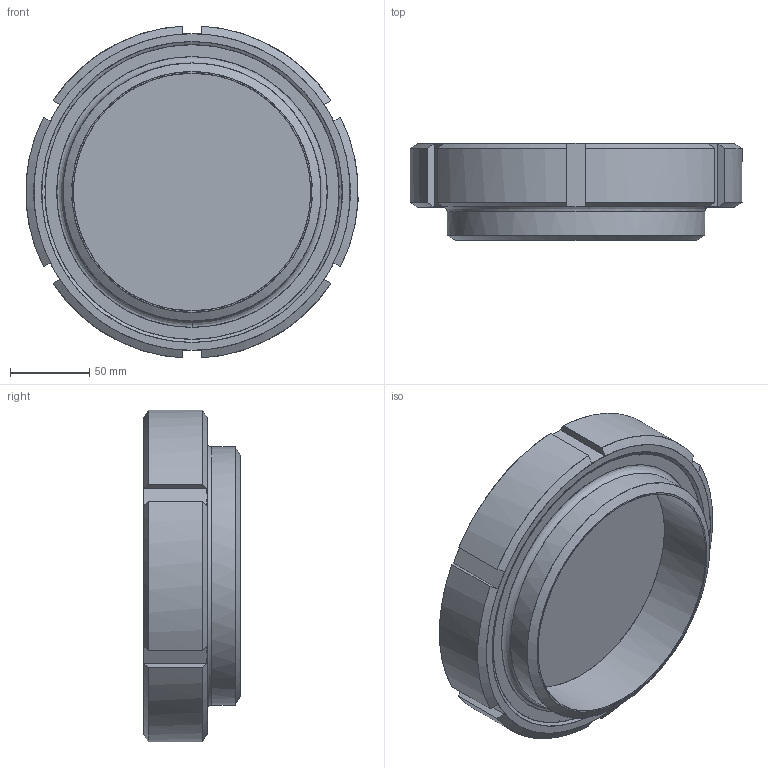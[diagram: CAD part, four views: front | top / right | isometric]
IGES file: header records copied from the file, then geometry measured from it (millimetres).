
Start section: C
Global section: file name: MV 150.igs; native system: By Siemens PLM Incorporated; preprocessor: XPlus GENERIC/IGES 18.0.17; author: Author; organization: Title; date: 20160118.152011; units: millimetre
Bounding box: 209.67 x 61 x 209.66 mm (x, y, z)
Surface area: 238913.8 mm2 (no closed solid volume)
Topology: 0 solids, 0 shells, 73 faces, 394 edges, 394 vertices
Faces by surface type: bspline 73
